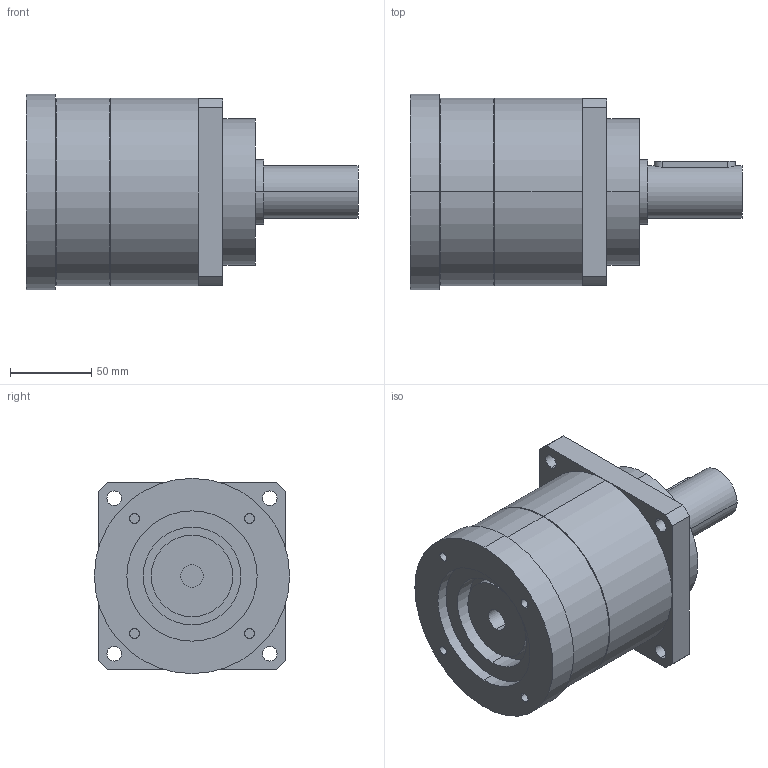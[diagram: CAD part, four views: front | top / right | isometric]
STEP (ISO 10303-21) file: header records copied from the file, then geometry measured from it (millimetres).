
FILE_DESCRIPTION(('CoCreate Modeling STEP Export'),'2;1');
FILE_NAME('GPT120_ig-3-4-5-7-10_32_B5A_14_P24.stp','2015-02-04T16:07:33',(''),(''),'CoCreate Modeling STEP processor for AP214 (Solid Model)','CoCreate Modeling 16.00C 25-Feb-2009 (C) Parametric Technology GmbH','');
FILE_SCHEMA(('AUTOMOTIVE_DESIGN { 1 0 10303 214 1 1 1 1 }'));
Length unit declared in the file: millimetre
Products named in the file (2): GPT120_ig-3-4-5-7-10_32_B5A_14_P24
Assembly tree (1 placements, depth 2):
  GPT120_ig-3-4-5-7-10_32_B5A_14_P24
    GPT120_ig-3-4-5-7-10_32_B5A_14_P24
Bounding box: 204 x 120 x 120 mm (x, y, z)
Volume: 1431163.8 mm3; surface area: 96142.8 mm2
Topology: 1 solids, 1 shells, 75 faces, 187 edges, 128 vertices
Faces by surface type: cylinder 44, plane 27, cone 4
Entity records: 2360 total; most frequent: CARTESIAN_POINT 721, ORIENTED_EDGE 374, DIRECTION 280, EDGE_CURVE 187, VERTEX_POINT 128, AXIS2_PLACEMENT_3D 105, EDGE_LOOP 97, FACE_OUTER_BOUND 75
